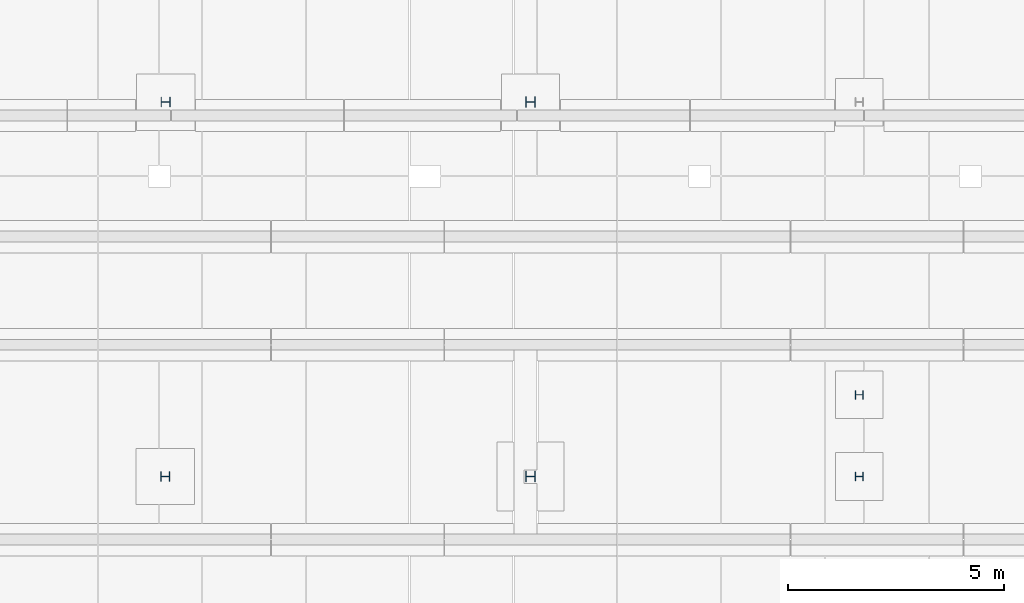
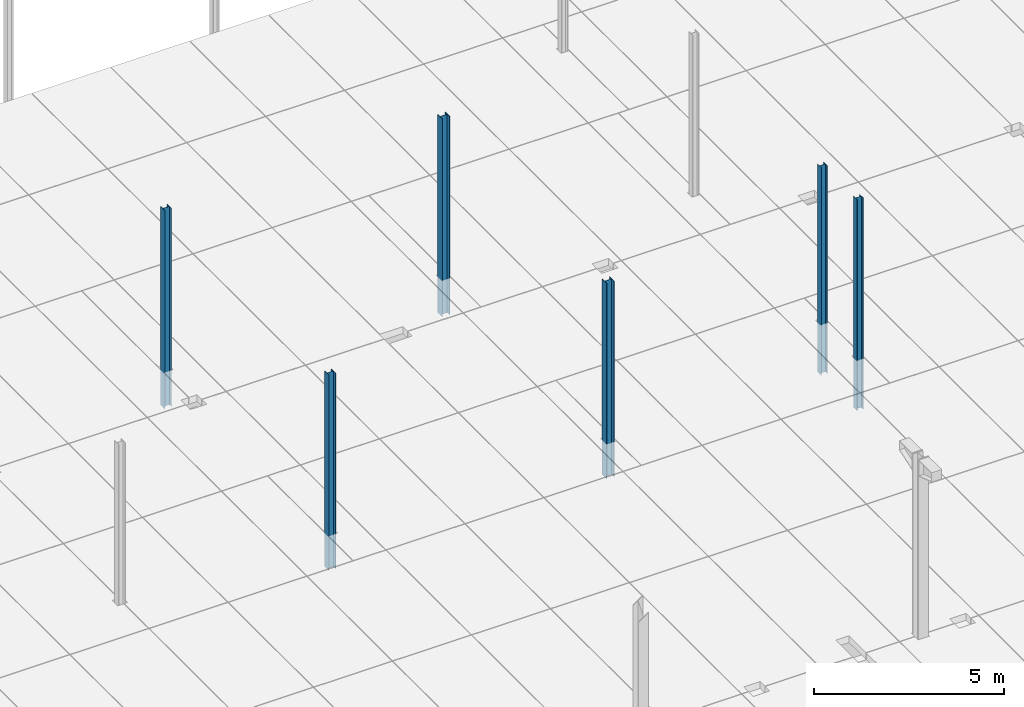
# One storey, part 28 of 59: 6 columns.
"""IFC2X3 building model written with IfcOpenShell, lengths in metres."""

from ifc_helpers import new_model, entity, si_unit, converted_unit, derived_unit, frame, origin, origin_with_axes, place, context, subcontext, project, spatial, polyline, outline, extrude, material, element, save


model = new_model("IFC2X3")

# Units and contexts
model_context = context("Model", 3, precision=1e-05, world=origin())
body_context = subcontext(model_context, "Body", "Model", "MODEL_VIEW")
ifc_project = project(units=[si_unit("LENGTHUNIT", "METRE"), si_unit("AREAUNIT", "SQUARE_METRE"), si_unit("VOLUMEUNIT", "CUBIC_METRE"), si_unit("MASSUNIT", "GRAM", prefix="KILO"), converted_unit("PLANEANGLEUNIT", "DEGREE", entity("IfcPlaneAngleMeasure", 0.0174532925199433), si_unit("PLANEANGLEUNIT", "RADIAN"), dimensions=[0, 0, 0, 0, 0, 0, 0]), derived_unit("THERMALTRANSMITTANCEUNIT", [(si_unit("POWERUNIT", "WATT"), 1), (si_unit("THERMODYNAMICTEMPERATUREUNIT", "KELVIN"), -1), (si_unit("LENGTHUNIT", "METRE"), -2)]), derived_unit("VOLUMETRICFLOWRATEUNIT", [(si_unit("LENGTHUNIT", "METRE"), 3), (converted_unit("TIMEUNIT", "hour", entity("IfcTimeMeasure", 3600.0), si_unit("TIMEUNIT", "SECOND"), dimensions=[0, 0, 1, 0, 0, 0, 0]), -1), (si_unit("LENGTHUNIT", "METRE"), -1)])], contexts=[model_context])

# Site, building, storey
site_placement = place(None, origin())
site = spatial("IfcSite", under=ifc_project, at=site_placement, Name="TWP_Speiseverteilzentrum SBW VZ II", CompositionType="ELEMENT")
building_placement = place(site_placement, origin())
building = spatial("IfcBuilding", under=site, at=building_placement, Name="Speiseverteilzentrum SBW VZ II", CompositionType="ELEMENT")
storey_placement = place(building_placement, frame((0.0, 0.0, 1.7307)))
storey = spatial("IfcBuildingStorey", under=building, at=storey_placement, Name="EG_Produktion_FFB", CompositionType="ELEMENT", Elevation=1.7307)

# Columns
ifc_material_1 = material(Name="S235")
column_1_placement = place(storey_placement, frame((43.4696804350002, 63.3374932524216, -1.4)))
element("IfcColumn", 1, at=column_1_placement, inside=storey, material=ifc_material_1, Name="Stahlstütze", context=body_context, shape_type="SweptSolid", body=[
    extrude(outline(polyline([(0.23, 0.0), (0.23, 0.24), (0.218, 0.24), (0.218, 0.12375), (0.012, 0.12375), (0.012, 0.24), (0.0, 0.24), (0.0, 0.0), (0.012, 0.0), (0.012, 0.11625), (0.218, 0.11625), (0.218, 0.0), (0.23, 0.0)])), origin_with_axes(), (0.0, 0.0, 1.0), 6.28),
])
ifc_material_2 = material(Name="S235")
column_2_placement = place(storey_placement, frame((51.0896046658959, 63.3574932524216, -1.9)))
element("IfcColumn", 2, at=column_2_placement, inside=storey, material=ifc_material_2, Name="Stahlstütze", context=body_context, shape_type="SweptSolid", body=[
    extrude(outline(polyline([(0.19, 0.0), (0.19, 0.2), (0.18, 0.2), (0.18, 0.10325), (0.01, 0.10325), (0.01, 0.2), (0.0, 0.2), (0.0, 0.0), (0.01, 0.0), (0.01, 0.09675), (0.18, 0.09675), (0.18, 0.0), (0.19, 0.0)])), origin_with_axes(), (0.0, 0.0, 1.0), 6.78),
])
ifc_material_3 = material(Name="S235")
column_3_placement = place(storey_placement, frame((51.0896046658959, 65.2445685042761, -1.9)))
element("IfcColumn", 3, at=column_3_placement, inside=storey, material=ifc_material_3, Name="Stahlstütze", context=body_context, shape_type="SweptSolid", body=[
    extrude(outline(polyline([(0.19, 0.0), (0.19, 0.2), (0.18, 0.2), (0.18, 0.10325), (0.01, 0.10325), (0.01, 0.2), (0.0, 0.2), (0.0, 0.0), (0.01, 0.0), (0.01, 0.09675), (0.18, 0.09675), (0.18, 0.0), (0.19, 0.0)])), origin_with_axes(), (0.0, 0.0, 1.0), 6.67),
])
ifc_material_4 = material(Name="S235")
column_4_placement = place(storey_placement, frame((35.0447596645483, 71.9995015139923, -1.45)))
element("IfcColumn", 4, at=column_4_placement, inside=storey, material=ifc_material_4, Name="Stahlstütze", context=body_context, shape_type="SweptSolid", body=[
    extrude(outline(polyline([(0.21, 0.0), (0.21, 0.22), (0.199, 0.22), (0.199, 0.1135), (0.011, 0.1135), (0.011, 0.22), (0.0, 0.22), (0.0, 0.0), (0.011, 0.0), (0.011, 0.1065), (0.199, 0.1065), (0.199, 0.0), (0.21, 0.0)])), origin_with_axes(), (0.0, 0.0, 1.0), 6.37),
])
ifc_material_5 = material(Name="S235")
column_5_placement = place(storey_placement, frame((43.4696804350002, 71.9895015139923, -1.45)))
element("IfcColumn", 5, at=column_5_placement, inside=storey, material=ifc_material_5, Name="Stahlstütze", context=body_context, shape_type="SweptSolid", body=[
    extrude(outline(polyline([(0.23, 0.0), (0.23, 0.24), (0.218, 0.24), (0.218, 0.12375), (0.012, 0.12375), (0.012, 0.24), (0.0, 0.24), (0.0, 0.0), (0.012, 0.0), (0.012, 0.11625), (0.218, 0.11625), (0.218, 0.0), (0.23, 0.0)])), origin_with_axes(), (0.0, 0.0, 1.0), 6.37),
])
ifc_material_6 = material(Name="S235")
column_6_placement = place(storey_placement, frame((35.0347596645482, 63.3474932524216, -1.4)))
element("IfcColumn", 6, at=column_6_placement, inside=storey, material=ifc_material_6, Name="Stahlstütze", context=body_context, shape_type="SweptSolid", body=[
    extrude(outline(polyline([(0.21, 0.0), (0.21, 0.22), (0.199, 0.22), (0.199, 0.1135), (0.011, 0.1135), (0.011, 0.22), (0.0, 0.22), (0.0, 0.0), (0.011, 0.0), (0.011, 0.1065), (0.199, 0.1065), (0.199, 0.0), (0.21, 0.0)])), origin_with_axes(), (0.0, 0.0, 1.0), 6.28),
])

save(model, "model.ifc")
